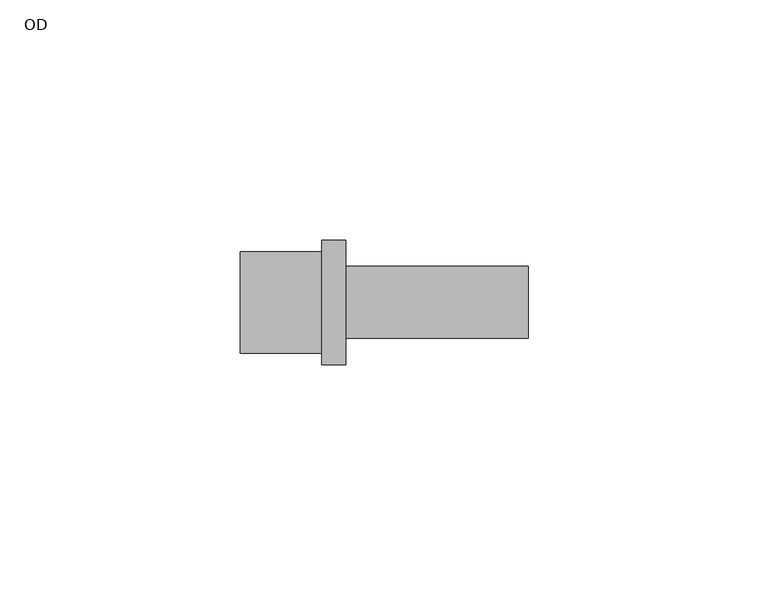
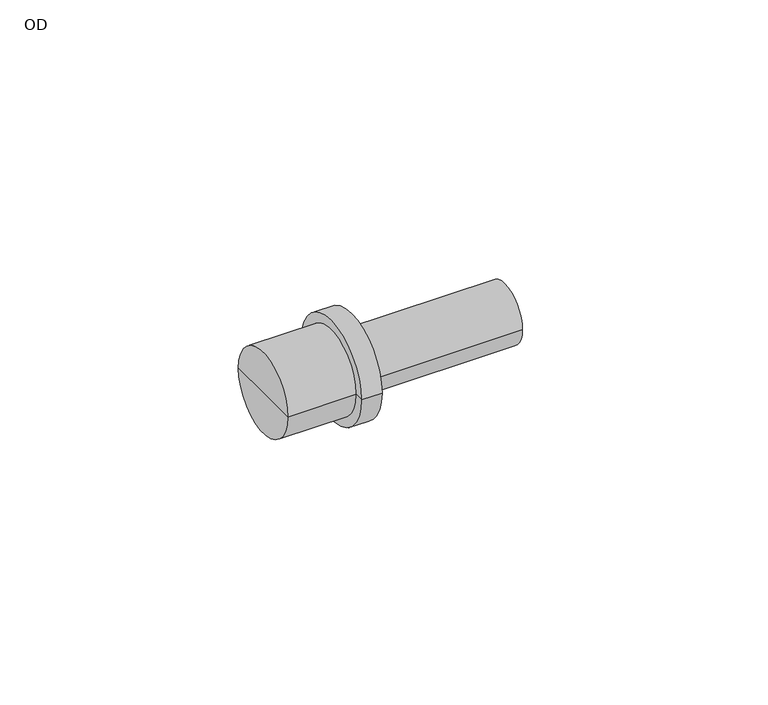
"""IFC4 building model written with IfcOpenShell, lengths in millimetres: pipe fitting geometry, Wavin_PipeFitting_Hep2oTransition : OD."""

import ifcopenshell
import ifcopenshell.guid

model = None  # the IFC model being written
_history = None  # IfcOwnerHistory: only IFC2X3 demands one
_inside = {}  # id of a spatial element -> (the spatial element, [elements in it])
_under = {}  # id of a project, library or spatial element -> (it, [spatial elements below it])
_declared = {}  # id of a project -> (the project, [libraries it declares])
_typed = {}  # id of a type object -> (the type object, [elements of that type])
_made_of = {}  # id of a material, layer set ... -> (it, [elements and type objects made of it])


def new_model(schema):
    """Start an empty IFC model of exactly this schema.

    Asked for "IFC4X3", IfcOpenShell would pick the latest addendum, in which some entities
    have other attributes; the version numbers below select the first issue.
    IFC2X3 requires an IfcOwnerHistory on every rooted entity: one is made here for all.
    """
    global model, _history
    if schema == "IFC4X3":
        model = ifcopenshell.file(schema_version=(4, 3, 0, 0))
    else:
        model = ifcopenshell.file(schema=schema)
    _inside.clear()
    _under.clear()
    _declared.clear()
    _typed.clear()
    _made_of.clear()
    _history = None
    if model.schema == "IFC2X3":
        org = make("IfcOrganization", Name="unknown")
        user = make(
            "IfcPersonAndOrganization",
            ThePerson=make("IfcPerson", FamilyName="unknown"),
            TheOrganization=org,
        )
        app = make(
            "IfcApplication",
            ApplicationDeveloper=org,
            Version="unknown",
            ApplicationFullName="unknown",
            ApplicationIdentifier="unknown",
        )
        _history = make(
            "IfcOwnerHistory",
            OwningUser=user,
            OwningApplication=app,
            ChangeAction="ADDED",
            CreationDate=0,
        )
    return model


def make(cls, **values):
    """One entity of the class cls with the attributes given. An attribute that is None is left unset."""
    return model.create_entity(
        cls, **{name: value for name, value in values.items() if value is not None}
    )


def rooted(cls, **values):
    """An entity with a GlobalId (a new one), such as an element, a storey or a relation."""
    return make(cls, GlobalId=ifcopenshell.guid.new(), OwnerHistory=_history, **values)


def si_unit(unit_type, name, prefix=None):
    """IfcSIUnit, for example si_unit("LENGTHUNIT", "METRE", prefix="MILLI")."""
    return make("IfcSIUnit", UnitType=unit_type, Prefix=prefix, Name=name)


def assignment(units):
    """IfcUnitAssignment: the units of a project."""
    return None if units is None else make("IfcUnitAssignment", Units=units)


def point(xyz):
    """IfcCartesianPoint."""
    return None if xyz is None else make("IfcCartesianPoint", Coordinates=xyz)


def direction(xyz):
    """IfcDirection."""
    return None if xyz is None else make("IfcDirection", DirectionRatios=xyz)


def frame(location, z_axis=None, x_axis=None):
    """IfcAxis2Placement3D, a coordinate frame: its origin and axes. An axis left out is left unset."""
    return make(
        "IfcAxis2Placement3D",
        Location=point(location),
        Axis=direction(z_axis),
        RefDirection=direction(x_axis),
    )


def origin():
    """The frame at (0, 0, 0) with its axes left unset."""
    return frame((0.0, 0.0, 0.0))


def place(relative_to, where):
    """IfcLocalPlacement: puts the frame where relative to a parent placement (None: the world)."""
    return make(
        "IfcLocalPlacement", PlacementRelTo=relative_to, RelativePlacement=where
    )


def context(
    kind, dimensions, precision=None, world=None, true_north=None, identifier=None
):
    """IfcGeometricRepresentationContext, for example the 3D "Model" context."""
    return make(
        "IfcGeometricRepresentationContext",
        ContextIdentifier=identifier,
        ContextType=kind,
        CoordinateSpaceDimension=dimensions,
        Precision=precision,
        WorldCoordinateSystem=world,
        TrueNorth=true_north,
    )


def project(units=None, contexts=None):
    """IfcProject with its units and contexts."""
    return rooted(
        "IfcProject",
        Name="project",
        RepresentationContexts=contexts,
        UnitsInContext=assignment(units),
    )


def spatial(cls, under=None, at=None, **own):
    """A site, building, storey or space (cls), placed at a placement, below another one or the project."""
    s = rooted(cls, ObjectPlacement=at, **own)
    if under is not None:
        _under.setdefault(under.id(), (under, []))[1].append(s)
    return s


def circle_curve(where, radius):
    """IfcCircle in the frame where."""
    return make("IfcCircle", Position=where, Radius=radius)


def shape(context_of_items, identifier, shape_type, items):
    """IfcShapeRepresentation: the items that make up one representation, for example the "Body"."""
    return make(
        "IfcShapeRepresentation",
        ContextOfItems=context_of_items,
        RepresentationIdentifier=identifier,
        RepresentationType=shape_type,
        Items=items,
    )


def source(mapping_origin, context_of_items, identifier, shape_type, items):
    """IfcRepresentationMap: a shape defined once, which mapped items show again and again."""
    return make(
        "IfcRepresentationMap",
        MappingOrigin=mapping_origin,
        MappedRepresentation=shape(context_of_items, identifier, shape_type, items),
    )


def transform(
    local_origin,
    x_axis=None,
    y_axis=None,
    z_axis=None,
    scale=None,
    scale2=None,
    scale3=None,
    uniform=True,
):
    """IfcCartesianTransformationOperator3D, or its non-uniform kind. x_axis, y_axis, z_axis: its Axis1, 2, 3."""
    if uniform:
        return make(
            "IfcCartesianTransformationOperator3D",
            Axis1=direction(x_axis),
            Axis2=direction(y_axis),
            LocalOrigin=point(local_origin),
            Scale=scale,
            Axis3=direction(z_axis),
        )
    return make(
        "IfcCartesianTransformationOperator3DnonUniform",
        Axis1=direction(x_axis),
        Axis2=direction(y_axis),
        LocalOrigin=point(local_origin),
        Scale=scale,
        Axis3=direction(z_axis),
        Scale2=scale2,
        Scale3=scale3,
    )


def mapped(mapping_source, mapping_target):
    """IfcMappedItem: shows the shape of a source again, moved by a transform."""
    return make(
        "IfcMappedItem", MappingSource=mapping_source, MappingTarget=mapping_target
    )


def made_of(thing, what):
    """Note that an element or type object is made of a material, layer set ...; save() writes the relation."""
    if what is not None:
        _made_of.setdefault(what.id(), (what, []))[1].append(thing)
    return thing


def element(
    cls,
    number,
    at=None,
    inside=None,
    cuts=None,
    type_object=None,
    material=None,
    context=None,
    identifier="Body",
    shape_type=None,
    held_by="IfcProductDefinitionShape",
    body=None,
    shapes=None,
    **own,
):
    """One element of the class cls, such as IfcWall. Its Tag is "e" and its number.

    at: its placement. inside: the storey or other place that contains it. cuts: it is an
    opening in that element (IfcRelVoidsElement). A single representation is given by context,
    identifier, shape_type and body (its items); several are given by shapes. held_by: the class
    of the entity that holds the representations. save() writes the other relations.
    """
    e = rooted(cls, Tag="e%d" % number, ObjectPlacement=at, **own)
    if body is not None:
        shapes = [shape(context, identifier, shape_type, body)]
    if shapes is not None:
        e.Representation = make(held_by, Representations=shapes)
    if inside is not None:
        _inside.setdefault(inside.id(), (inside, []))[1].append(e)
    if cuts is not None:
        rooted(
            "IfcRelVoidsElement", RelatingBuildingElement=cuts, RelatedOpeningElement=e
        )
    if type_object is not None:
        _typed.setdefault(type_object.id(), (type_object, []))[1].append(e)
    return made_of(e, material)


def aggregate(whole, parts):
    """IfcRelAggregates: a whole, such as a stair, and the parts it consists of."""
    return rooted("IfcRelAggregates", RelatingObject=whole, RelatedObjects=parts)


def save(model, path):
    """Write the relations noted so far, then the file.

    IfcRelAggregates (storeys below a building ...), IfcRelContainedInSpatialStructure (elements
    in a storey), IfcRelDefinesByType, IfcRelAssociatesMaterial and IfcRelDeclares: one each for
    every whole, place, type object, material and project.
    """
    for whole, parts in _under.values():
        aggregate(whole, parts)
    for where, things in _inside.values():
        rooted(
            "IfcRelContainedInSpatialStructure",
            RelatedElements=things,
            RelatingStructure=where,
        )
    for kind, things in _typed.values():
        rooted("IfcRelDefinesByType", RelatedObjects=things, RelatingType=kind)
    for what, things in _made_of.values():
        rooted("IfcRelAssociatesMaterial", RelatedObjects=things, RelatingMaterial=what)
    for by, libraries in _declared.values():
        rooted("IfcRelDeclares", RelatingContext=by, RelatedDefinitions=libraries)
    model.write(path)


def plane_surface(at):
    """IfcPlane: the flat surface through the origin of the frame at, square to its z axis."""
    return make("IfcPlane", Position=at)


def cylinder_surface(at, radius):
    """IfcCylindricalSurface: all points at the distance radius from the z axis of the frame at."""
    return make("IfcCylindricalSurface", Position=at, Radius=radius)


def advanced_brep(points, edges, surfaces, faces):
    """IfcAdvancedBrep: a solid bounded by faces that lie on surfaces and meet in shared edges.

    An edge is (start, end): straight between two places in points (the first is 0);
    or (start, end, curve); or (start, end, curve, False) where it runs against its curve.
    A face is (place in surfaces, loops), or (place, loops, False) where it looks against
    its surface's normal. A loop lists edges by number (the first is 1), with a minus sign
    where the edge is run from its end to its start. The first loop is the outer one.
    """
    corners = [point(p) for p in points]
    vertices = [make("IfcVertexPoint", VertexGeometry=c) for c in corners]
    made = []
    for start, end, *more in edges:
        made.append(
            make(
                "IfcEdgeCurve",
                EdgeStart=vertices[start],
                EdgeEnd=vertices[end],
                EdgeGeometry=more[0] if more else make("IfcPolyline", Points=[corners[start], corners[end]]),
                SameSense=more[1] if len(more) > 1 else True,
            )
        )
    hull = []
    for where, loops, *sense in faces:
        bounds = []
        for j, loop in enumerate(loops):
            ring = [make("IfcOrientedEdge", EdgeElement=made[abs(k) - 1], Orientation=k > 0) for k in loop]
            bounds.append(
                make(
                    "IfcFaceOuterBound" if j == 0 else "IfcFaceBound",
                    Bound=make("IfcEdgeLoop", EdgeList=ring),
                    Orientation=True,
                )
            )
        hull.append(make("IfcAdvancedFace", Bounds=bounds, FaceSurface=surfaces[where], SameSense=sense[0] if sense else True))
    return make("IfcAdvancedBrep", Outer=make("IfcClosedShell", CfsFaces=hull))


def od_12591e28(model_context):
    return source(origin(), model_context, "Body", "AdvancedBrep", [
        advanced_brep(
        [(0.0, 0.0, 0.0), (0.0, 10.6, 0.0), (0.0, -10.6, 0.0), (60.0, -7.5, 0.0), (60.0, 7.5, 0.0), (60.0, 0.0, 0.0), (22.0, -7.5, 0.0), (22.0, 7.5, 0.0), (22.0, -13.0, 0.0), (22.0, 13.0, 0.0), (17.0, -13.0, 0.0), (17.0, 13.0, 0.0), (17.0, -10.6, 0.0), (17.0, 10.6, 0.0)],
        [
            (0, 1),
            (1, 2, circle_curve(frame((0.0, 0.0, 0.0), z_axis=(-1.0, 0.0, 0.0), x_axis=(0.0, 1.0, 0.0)), 10.6)),
            (2, 0),
            (2, 1, circle_curve(frame((0.0, 0.0, 0.0), z_axis=(-1.0, 0.0, 0.0), x_axis=(0.0, 1.0, 0.0)), 10.6)),
            (3, 4, circle_curve(frame((60.0, 0.0, 0.0), z_axis=(1.0, 0.0, 0.0), x_axis=(0.0, 1.0, 0.0)), 7.5)),
            (4, 5),
            (5, 3),
            (4, 3, circle_curve(frame((60.0, 0.0, 0.0), z_axis=(1.0, 0.0, 0.0), x_axis=(0.0, 1.0, 0.0)), 7.5)),
            (6, 7, circle_curve(frame((22.0, 0.0, 0.0), z_axis=(1.0, 0.0, 0.0), x_axis=(0.0, 1.0, 0.0)), 7.5)),
            (7, 4),
            (3, 6),
            (7, 6, circle_curve(frame((22.0, 0.0, 0.0), z_axis=(1.0, 0.0, 0.0), x_axis=(0.0, 1.0, 0.0)), 7.5)),
            (8, 9, circle_curve(frame((22.0, 0.0, 0.0), z_axis=(1.0, 0.0, 0.0), x_axis=(0.0, 1.0, 0.0)), 13.0)),
            (9, 7),
            (6, 8),
            (9, 8, circle_curve(frame((22.0, 0.0, 0.0), z_axis=(1.0, 0.0, 0.0), x_axis=(0.0, 1.0, 0.0)), 13.0)),
            (10, 11, circle_curve(frame((17.0, 0.0, 0.0), z_axis=(1.0, 0.0, 0.0), x_axis=(0.0, 1.0, 0.0)), 13.0)),
            (11, 9),
            (8, 10),
            (11, 10, circle_curve(frame((17.0, 0.0, 0.0), z_axis=(1.0, 0.0, 0.0), x_axis=(0.0, 1.0, 0.0)), 13.0)),
            (12, 13, circle_curve(frame((17.0, 0.0, 0.0), z_axis=(1.0, 0.0, 0.0), x_axis=(0.0, 1.0, 0.0)), 10.6)),
            (13, 11),
            (10, 12),
            (13, 12, circle_curve(frame((17.0, 0.0, 0.0), z_axis=(1.0, 0.0, 0.0), x_axis=(0.0, 1.0, 0.0)), 10.6)),
            (1, 13),
            (12, 2),
        ],
        [
            plane_surface(frame((0.0, 0.0, 0.0), z_axis=(-1.0, 0.0, 0.0), x_axis=(0.0, 1.0, 0.0))),
            plane_surface(frame((60.0, 0.0, 0.0), z_axis=(1.0, 0.0, 0.0), x_axis=(0.0, 1.0, 0.0))),
            cylinder_surface(frame((0.0, 0.0, 0.0), z_axis=(-1.0, 0.0, 0.0), x_axis=(0.0, 1.0, 0.0)), 7.5),
            plane_surface(frame((22.0, 0.0, 0.0), z_axis=(1.0, 0.0, 0.0), x_axis=(0.0, 1.0, 0.0))),
            cylinder_surface(frame((0.0, 0.0, 0.0), z_axis=(-1.0, 0.0, 0.0), x_axis=(0.0, 1.0, 0.0)), 13.0),
            plane_surface(frame((17.0, 0.0, 0.0), z_axis=(-1.0, 0.0, 0.0), x_axis=(0.0, 1.0, 0.0))),
            cylinder_surface(frame((0.0, 0.0, 0.0), z_axis=(-1.0, 0.0, 0.0), x_axis=(0.0, 1.0, 0.0)), 10.6),
        ],
        [
            (0, [[1, 2, 3]]),
            (0, [[-3, 4, -1]]),
            (1, [[5, 6, 7]]),
            (1, [[8, -7, -6]]),
            (2, [[9, 10, -5, 11]]),
            (2, [[12, -11, -8, -10]]),
            (3, [[13, 14, -9, 15]]),
            (3, [[16, -15, -12, -14]]),
            (4, [[17, 18, -13, 19]]),
            (4, [[20, -19, -16, -18]]),
            (5, [[21, 22, -17, 23]]),
            (5, [[24, -23, -20, -22]]),
            (6, [[-2, 25, -21, 26]]),
            (6, [[-4, -26, -24, -25]]),
        ],
    ),
    ])


if __name__ == "__main__":
    model = new_model("IFC4")
    model_context = context("Model", 3, world=origin())
    ifc_project = project(units=[si_unit("LENGTHUNIT", "METRE", prefix="MILLI")], contexts=[model_context])
    site = spatial("IfcSite", under=ifc_project)
    building = spatial("IfcBuilding", under=site)
    placement = place(None, origin())
    od_shape = od_12591e28(model_context)
    element("IfcPipeFitting", 1, ObjectType="Wavin_PipeFitting_Hep2oTransition : OD", at=placement, inside=building, context=model_context, shape_type="MappedRepresentation", body=[
        mapped(od_shape, transform((0.0, 0.0, 0.0), x_axis=(1.0, 0.0, 0.0), y_axis=(0.0, 1.0, 0.0), z_axis=(0.0, 0.0, 1.0))),
    ])
    save(model, "model.ifc")
